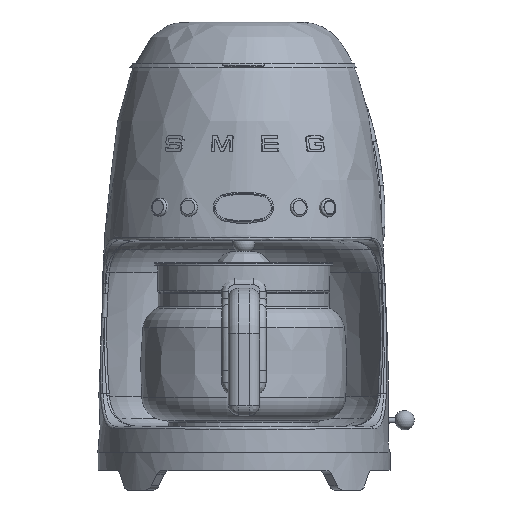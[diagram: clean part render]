
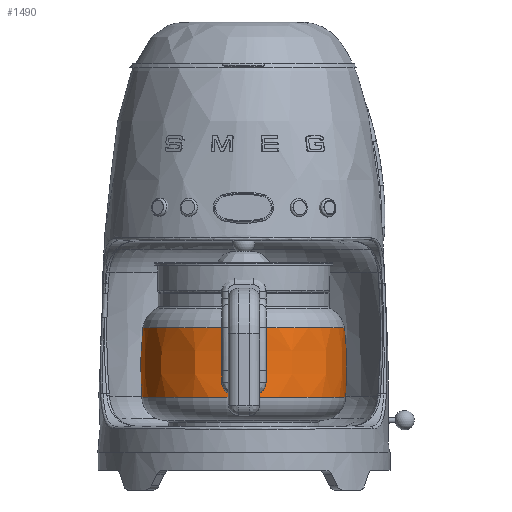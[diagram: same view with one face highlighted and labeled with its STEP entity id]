
A CAD part, front view. The second image highlights one B-rep face of the part: STEP entity #1490.
In plain terms, the highlighted free-form (B-spline) face has degree [3, 3] with [4, 7] control points.
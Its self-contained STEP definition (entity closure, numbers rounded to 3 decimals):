
#45=(
BOUNDED_SURFACE()
B_SPLINE_SURFACE(3,3,((#11297,#11298,#11299,#11300,#11301,#11302,#11303),
(#11304,#11305,#11306,#11307,#11308,#11309,#11310),(#11311,#11312,#11313,
#11314,#11315,#11316,#11317),(#11318,#11319,#11320,#11321,#11322,#11323,
#11324)),.UNSPECIFIED.,.F.,.T.,.F.)
B_SPLINE_SURFACE_WITH_KNOTS((4,4),(1,3,3,3,1),(0.,1.),(-0.5,0.,0.5,1.,1.5),
 .UNSPECIFIED.)
GEOMETRIC_REPRESENTATION_ITEM()
RATIONAL_B_SPLINE_SURFACE(((1.,0.333,0.333,1.,0.333,
0.333,1.),(0.997,0.332,0.332,
0.997,0.332,0.332,0.997),
(0.997,0.332,0.332,0.997,
0.332,0.332,0.997),(1.,0.333,
0.333,1.,0.333,0.333,1.)))
REPRESENTATION_ITEM('')
SURFACE()
);
#150=FACE_BOUND('',#2480,.T.);
#151=FACE_BOUND('',#2481,.T.);
#1178=CIRCLE('',#7663,78.098);
#1179=CIRCLE('',#7665,77.285);
#1490=ADVANCED_FACE('',(#150,#151),#45,.T.);
#2480=EDGE_LOOP('',(#3487));
#2481=EDGE_LOOP('',(#3488));
#3487=ORIENTED_EDGE('',*,*,#5829,.T.);
#3488=ORIENTED_EDGE('',*,*,#5828,.F.);
#5046=VERTEX_POINT('',#11293);
#5047=VERTEX_POINT('',#11296);
#5828=EDGE_CURVE('',#5046,#5046,#1178,.T.);
#5829=EDGE_CURVE('',#5047,#5047,#1179,.T.);
#7663=AXIS2_PLACEMENT_3D('',#11292,#8891,#8892);
#7665=AXIS2_PLACEMENT_3D('',#11295,#8895,#8896);
#8891=DIRECTION('',(0.,0.,-1.));
#8892=DIRECTION('',(-1.,0.,0.));
#8895=DIRECTION('',(0.,0.,-1.));
#8896=DIRECTION('',(-1.,0.,0.));
#11292=CARTESIAN_POINT('',(0.,-27.366,61.878));
#11293=CARTESIAN_POINT('',(-78.098,-27.366,61.878));
#11295=CARTESIAN_POINT('',(0.,-27.366,115.168));
#11296=CARTESIAN_POINT('',(-77.285,-27.366,115.168));
#11297=CARTESIAN_POINT('',(-78.098,-27.366,61.878));
#11298=CARTESIAN_POINT('',(-78.098,128.83,61.878));
#11299=CARTESIAN_POINT('',(78.098,128.83,61.878));
#11300=CARTESIAN_POINT('',(78.098,-27.366,61.878));
#11301=CARTESIAN_POINT('',(78.098,-183.562,61.878));
#11302=CARTESIAN_POINT('',(-78.098,-183.562,61.878));
#11303=CARTESIAN_POINT('',(-78.098,-27.366,61.878));
#11304=CARTESIAN_POINT('',(-79.542,-27.366,79.64));
#11305=CARTESIAN_POINT('',(-79.542,131.718,79.64));
#11306=CARTESIAN_POINT('',(79.542,131.718,79.64));
#11307=CARTESIAN_POINT('',(79.542,-27.366,79.64));
#11308=CARTESIAN_POINT('',(79.542,-186.451,79.64));
#11309=CARTESIAN_POINT('',(-79.542,-186.451,79.64));
#11310=CARTESIAN_POINT('',(-79.542,-27.366,79.64));
#11311=CARTESIAN_POINT('',(-79.27,-27.366,97.458));
#11312=CARTESIAN_POINT('',(-79.27,131.174,97.458));
#11313=CARTESIAN_POINT('',(79.27,131.174,97.458));
#11314=CARTESIAN_POINT('',(79.27,-27.366,97.458));
#11315=CARTESIAN_POINT('',(79.27,-185.907,97.458));
#11316=CARTESIAN_POINT('',(-79.27,-185.907,97.458));
#11317=CARTESIAN_POINT('',(-79.27,-27.366,97.458));
#11318=CARTESIAN_POINT('',(-77.285,-27.366,115.168));
#11319=CARTESIAN_POINT('',(-77.285,127.203,115.168));
#11320=CARTESIAN_POINT('',(77.285,127.203,115.168));
#11321=CARTESIAN_POINT('',(77.285,-27.366,115.168));
#11322=CARTESIAN_POINT('',(77.285,-181.936,115.168));
#11323=CARTESIAN_POINT('',(-77.285,-181.936,115.168));
#11324=CARTESIAN_POINT('',(-77.285,-27.366,115.168));
